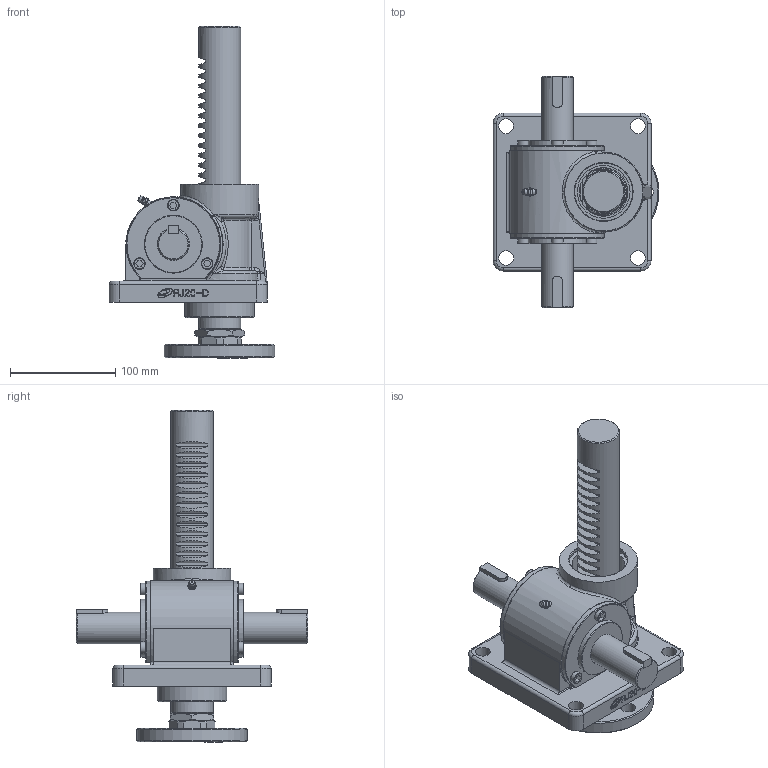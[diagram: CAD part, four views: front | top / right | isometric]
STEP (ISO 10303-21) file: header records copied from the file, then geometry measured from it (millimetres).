
FILE_DESCRIPTION(('STEP AP203'),'1');
FILE_NAME('RJ20UD-150ST.stp','2022-07-05T06:45:39',(' '),(' '),'Spatial InterOp 3D',' ',' ');
FILE_SCHEMA(('CONFIG_CONTROL_DESIGN'));
Length unit declared in the file: millimetre
Products named in the file (28): RJ20UD-150ST; Rack Gear(RJ20); Flange-Part; Flange; Joint; Nut; Body-Part; Nipple; Pinion Gear; Shaft; Key; Bolt; Bearing Cover Open(RJ20); Gear Box(RJ20); RJ05-4SCJ-610X600-100ST_CAP; LABEL-B.1; ___; 파트18; __ 
Assembly tree (27 placements, depth 5):
  RJ20UD-150ST
    Rack Gear(RJ20)
    Flange-Part
      Flange
      Joint
      Nut
    Body-Part
      Nipple
      Pinion Gear
      Shaft
        Key
        Shaft
        Key
        Shaft
      Bolt
      Bolt
      Bolt
      Bolt
      Bolt
      Bolt
      Bearing Cover Open(RJ20)
      Bearing Cover Open(RJ20)
      Gear Box(RJ20)
    __ 
      ___
        RJ05-4SCJ-610X600-100ST_CAP
          LABEL-B.1
        파트18
Bounding box: 157.5 x 220 x 315 mm (x, y, z)
Volume: 1394645.7 mm3; surface area: 305034.3 mm2
Topology: 26 solids, 26 shells, 2403 faces, 6657 edges, 4357 vertices
Faces by surface type: plane 1794, cylinder 299, torus 108, cone 99, extrusion 52, bspline 36, sphere 8, revolution 7
Full cylindrical faces by diameter (mm): 3.113 x1, 6 x8, 6.6 x1, 8 x6, 9 x6, 11 x6, 14 x8, 28 x1, 30 x4, 30.5 x2, 32 x1, 40 x1, 43 x2, 44 x3, 45 x1, 46 x2, 50 x2, 52 x2, 54 x1, 55 x4, 58 x1, 61.4 x2, 62 x1, 66 x1, 74 x1, 105 x1
Entity records: 81827 total; most frequent: CARTESIAN_POINT 20032, ORIENTED_EDGE 12878, DIRECTION 11692, EDGE_CURVE 6439, VECTOR 5211, LINE 5159, VERTEX_POINT 4286, AXIS2_PLACEMENT_3D 3237
